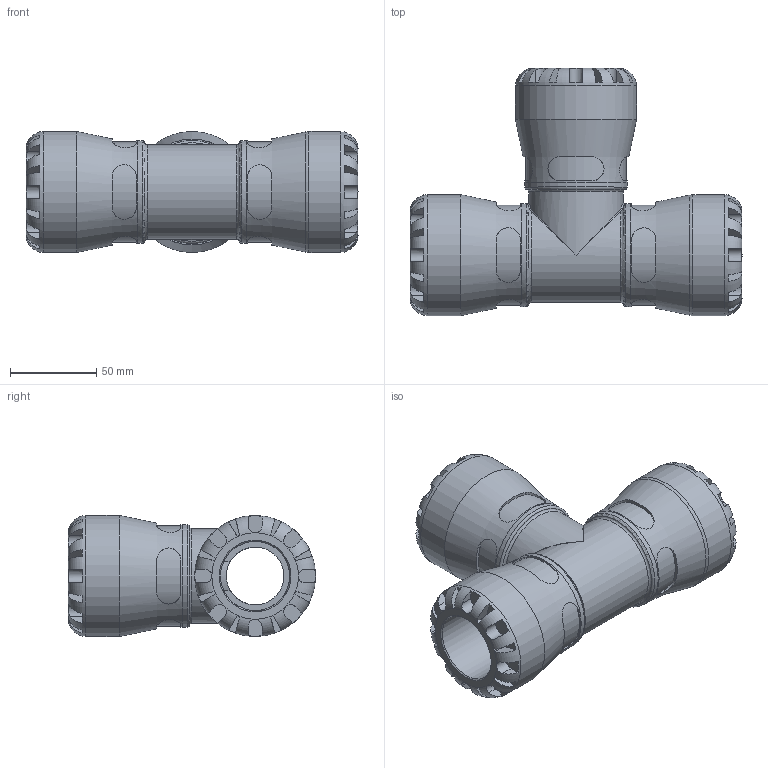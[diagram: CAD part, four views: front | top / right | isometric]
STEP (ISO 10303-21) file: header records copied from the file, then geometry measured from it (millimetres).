
FILE_DESCRIPTION(/* description */ ('PLASSON TEE 40X40X40 SERIES 1'),/* implementation_level */ '2;1');
FILE_NAME(/* name */ 'C:\Dropbox\KIMPROJECTS-Inventor\99-16-3568-Processing\S1\1004\100400040_190400040.ipt.stp',/* time_stamp */ '2018-02-11T12:57:37+02:00',/* author */ ('KIM'),/* organization */ (''),/* preprocessor_version */ 'ST-DEVELOPER v15.6',/* originating_system */ 'Autodesk Inventor 2015',/* authorisation */ '');
FILE_SCHEMA (('AUTOMOTIVE_DESIGN { 1 0 10303 214 3 1 1 }'));
Length unit declared in the file: millimetre
Products named in the file (1): 100400040_190400040
Bounding box: 192 x 143 x 70 mm (x, y, z)
Volume: 507245.6 mm3; surface area: 99932.7 mm2
Topology: 1 solids, 1 shells, 298 faces, 768 edges, 477 vertices
Faces by surface type: plane 174, cylinder 99, torus 13, bspline 10, cone 2
Full cylindrical faces by diameter (mm): 33.333 x2, 40 x3, 54.6 x1, 59.5 x3, 70 x3
Entity records: 12019 total; most frequent: CARTESIAN_POINT 5039, ORIENTED_EDGE 1432, DIRECTION 1350, EDGE_CURVE 716, AXIS2_PLACEMENT_3D 553, VERTEX_POINT 458, EDGE_LOOP 340, FACE_OUTER_BOUND 298
